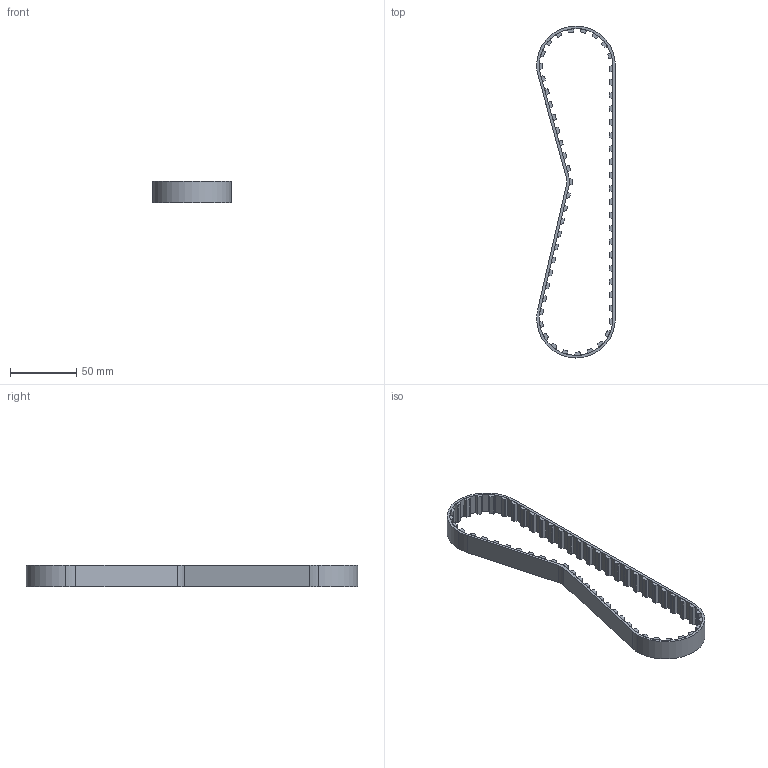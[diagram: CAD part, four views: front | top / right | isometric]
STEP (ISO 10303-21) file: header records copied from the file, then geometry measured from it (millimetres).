
FILE_DESCRIPTION (( 'STEP AP203' ), '1' );
FILE_NAME ('084.821.009.STEP', '2018-03-09T15:20:09', ( '' ), ( '' ), 'SwSTEP 2.0', 'SolidWorks 2016', '' );
FILE_SCHEMA (( 'CONFIG_CONTROL_DESIGN' ));
Length unit declared in the file: millimetre
Products named in the file (1): 084.821.009
Bounding box: 59.45 x 250.95 x 16 mm (x, y, z)
Volume: 28030.7 mm3; surface area: 34192 mm2
Topology: 57 solids, 57 shells, 466 faces, 1056 edges, 704 vertices
Faces by surface type: plane 344, cylinder 122
Entity records: 12973 total; most frequent: DIRECTION 2234, CARTESIAN_POINT 2227, ORIENTED_EDGE 2112, EDGE_CURVE 1056, LINE 812, VECTOR 812, AXIS2_PLACEMENT_3D 711, VERTEX_POINT 704
